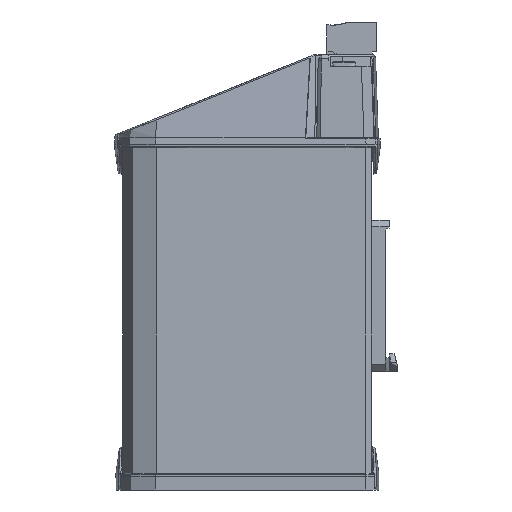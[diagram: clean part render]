
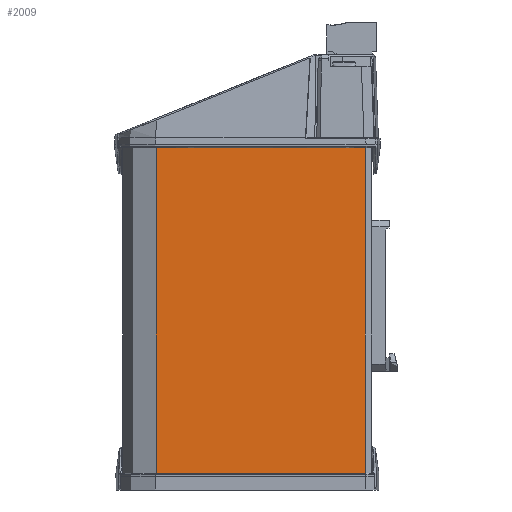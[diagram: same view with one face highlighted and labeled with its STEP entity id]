
A CAD part, left-side view. The second image highlights one B-rep face of the part: STEP entity #2009.
In plain terms, the highlighted planar face has unit normal (-1, 0, 0) as drawn and (0, 1, 0) by its records, which use the part's own axes.
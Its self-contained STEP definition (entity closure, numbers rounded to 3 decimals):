
#2009=ADVANCED_FACE('',(#3212),#19243,.T.);
#3212=FACE_OUTER_BOUND('',#4510,.T.);
#4510=EDGE_LOOP('',(#10645,#10646,#10647,#10648));
#10645=ORIENTED_EDGE('',*,*,#13726,.F.);
#10646=ORIENTED_EDGE('',*,*,#13745,.F.);
#10647=ORIENTED_EDGE('',*,*,#13743,.F.);
#10648=ORIENTED_EDGE('',*,*,#13746,.T.);
#13726=EDGE_CURVE('',#18754,#18751,#15736,.T.);
#13743=EDGE_CURVE('',#18765,#18766,#15748,.T.);
#13745=EDGE_CURVE('',#18766,#18754,#15749,.T.);
#13746=EDGE_CURVE('',#18765,#18751,#15750,.T.);
#15736=B_SPLINE_CURVE_WITH_KNOTS('',1,(#46577,#46578),.UNSPECIFIED.,.F.,
 .F.,(2,2),(0.,100.),.UNSPECIFIED.);
#15748=B_SPLINE_CURVE_WITH_KNOTS('',1,(#46616,#46617),.UNSPECIFIED.,.F.,
 .F.,(2,2),(0.,100.),.UNSPECIFIED.);
#15749=B_SPLINE_CURVE_WITH_KNOTS('',1,(#46621,#46622),.UNSPECIFIED.,.F.,
 .F.,(2,2),(0.,63.),.UNSPECIFIED.);
#15750=B_SPLINE_CURVE_WITH_KNOTS('',1,(#46623,#46624),.UNSPECIFIED.,.F.,
 .F.,(2,2),(-63.,0.),.UNSPECIFIED.);
#18751=VERTEX_POINT('',#46539);
#18754=VERTEX_POINT('',#46542);
#18765=VERTEX_POINT('',#46553);
#18766=VERTEX_POINT('',#46554);
#19243=PLANE('',#21005);
#21005=AXIS2_PLACEMENT_3D('',#46530,#21836,$);
#21836=DIRECTION('',(0.,1.,0.));
#46530=CARTESIAN_POINT('',(-71.3,24.5,-10.));
#46539=CARTESIAN_POINT('',(-65.,24.5,0.));
#46542=CARTESIAN_POINT('',(-65.,24.5,100.));
#46553=CARTESIAN_POINT('',(-2.,24.5,0.));
#46554=CARTESIAN_POINT('',(-2.,24.5,100.));
#46577=CARTESIAN_POINT('',(-65.,24.5,100.));
#46578=CARTESIAN_POINT('',(-65.,24.5,0.));
#46616=CARTESIAN_POINT('',(-2.,24.5,0.));
#46617=CARTESIAN_POINT('',(-2.,24.5,100.));
#46621=CARTESIAN_POINT('',(-2.,24.5,100.));
#46622=CARTESIAN_POINT('',(-65.,24.5,100.));
#46623=CARTESIAN_POINT('',(-2.,24.5,0.));
#46624=CARTESIAN_POINT('',(-65.,24.5,0.));
